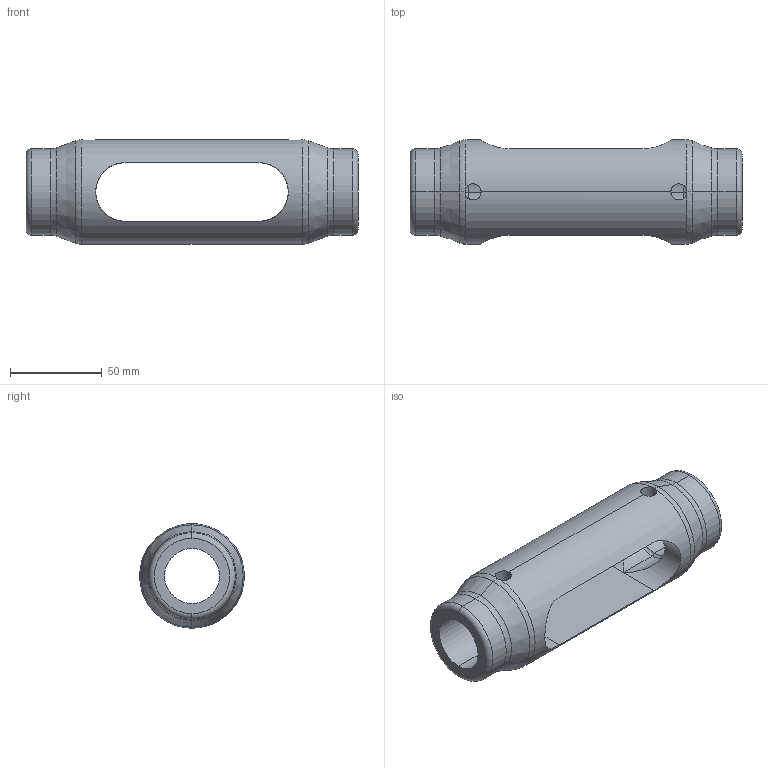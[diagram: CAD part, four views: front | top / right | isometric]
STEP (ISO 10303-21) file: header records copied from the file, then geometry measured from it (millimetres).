
FILE_DESCRIPTION (( 'STEP AP203' ), '1' );
FILE_NAME ('Kreuzmuffe M30.STEP', '2018-03-14T05:20:56', ( 'install' ), ( 'Hewlett-Packard Company' ), 'SwSTEP 2.0', 'SolidWorks 2017', '' );
FILE_SCHEMA (( 'CONFIG_CONTROL_DESIGN' ));
Length unit declared in the file: millimetre
Products named in the file (1): Kreuzmuffe M30
Bounding box: 181 x 57 x 57 mm (x, y, z)
Volume: 194876.4 mm3; surface area: 45370.9 mm2
Topology: 1 solids, 1 shells, 46 faces, 108 edges, 58 vertices
Faces by surface type: cylinder 22, torus 16, cone 4, plane 4
Entity records: 1835 total; most frequent: CARTESIAN_POINT 717, DIRECTION 228, ORIENTED_EDGE 216, EDGE_CURVE 108, AXIS2_PLACEMENT_3D 97, VERTEX_POINT 58, CIRCLE 50, EDGE_LOOP 50
